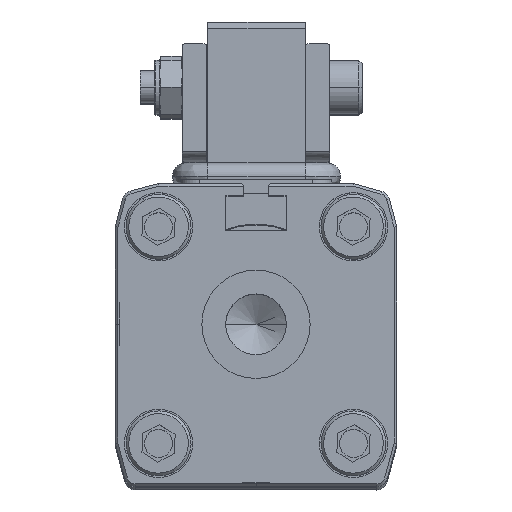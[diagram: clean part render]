
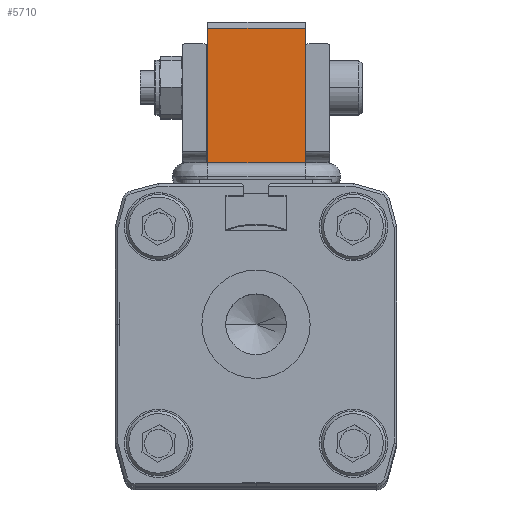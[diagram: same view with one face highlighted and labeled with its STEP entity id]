
A CAD part, top view. The second image highlights one B-rep face of the part: STEP entity #5710.
In plain terms, the highlighted planar face has unit normal (0, 0, 1).
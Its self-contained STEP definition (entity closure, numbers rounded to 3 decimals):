
#262 = VECTOR ( 'NONE', #14747, 1000. ) ;
#1405 = FACE_OUTER_BOUND ( 'NONE', #29903, .T. ) ;
#2987 = ORIENTED_EDGE ( 'NONE', *, *, #30590, .F. ) ;
#4128 = ORIENTED_EDGE ( 'NONE', *, *, #24702, .T. ) ;
#5710 = ADVANCED_FACE ( 'NONE', ( #1405 ), #26987, .T. ) ;
#9237 = VECTOR ( 'NONE', #18330, 1000. ) ;
#10113 = LINE ( 'NONE', #14879, #262 ) ;
#12184 = VECTOR ( 'NONE', #35940, 1000. ) ;
#13817 = CARTESIAN_POINT ( 'NONE',  ( 9.1, 56.8, 350.5 ) ) ;
#14747 = DIRECTION ( 'NONE',  ( 0., -1., 0. ) ) ;
#14879 = CARTESIAN_POINT ( 'NONE',  ( -8.9, 56.8, 350.5 ) ) ;
#16023 = VERTEX_POINT ( 'NONE', #40854 ) ;
#16625 = DIRECTION ( 'NONE',  ( -1., 0., 0. ) ) ;
#16880 = CARTESIAN_POINT ( 'NONE',  ( -8.9, 56.8, 350.5 ) ) ;
#17284 = VECTOR ( 'NONE', #16625, 1000. ) ;
#18330 = DIRECTION ( 'NONE',  ( -1., 0., 0. ) ) ;
#18465 = EDGE_CURVE ( 'NONE', #16023, #22670, #21043, .T. ) ;
#20537 = DIRECTION ( 'NONE',  ( 0., 0., 1. ) ) ;
#21043 = LINE ( 'NONE', #34161, #9237 ) ;
#21257 = LINE ( 'NONE', #16880, #17284 ) ;
#22670 = VERTEX_POINT ( 'NONE', #27941 ) ;
#24077 = CARTESIAN_POINT ( 'NONE',  ( -8.9, 56.8, 350.5 ) ) ;
#24702 = EDGE_CURVE ( 'NONE', #32200, #22670, #10113, .T. ) ;
#26987 = PLANE ( 'NONE',  #38162 ) ;
#27941 = CARTESIAN_POINT ( 'NONE',  ( -8.9, 31.5, 350.5 ) ) ;
#29903 = EDGE_LOOP ( 'NONE', ( #4128, #34719, #2987, #30256 ) ) ;
#30256 = ORIENTED_EDGE ( 'NONE', *, *, #33487, .T. ) ;
#30590 = EDGE_CURVE ( 'NONE', #34507, #16023, #37782, .T. ) ;
#32200 = VERTEX_POINT ( 'NONE', #40191 ) ;
#33487 = EDGE_CURVE ( 'NONE', #34507, #32200, #21257, .T. ) ;
#34161 = CARTESIAN_POINT ( 'NONE',  ( -8.9, 31.5, 350.5 ) ) ;
#34507 = VERTEX_POINT ( 'NONE', #13817 ) ;
#34719 = ORIENTED_EDGE ( 'NONE', *, *, #18465, .F. ) ;
#35811 = CARTESIAN_POINT ( 'NONE',  ( 9.1, 56.8, 350.5 ) ) ;
#35940 = DIRECTION ( 'NONE',  ( 0., -1., 0. ) ) ;
#36646 = DIRECTION ( 'NONE',  ( 1., 0., 0. ) ) ;
#37782 = LINE ( 'NONE', #35811, #12184 ) ;
#38162 = AXIS2_PLACEMENT_3D ( 'NONE', #24077, #20537, #36646 ) ;
#40191 = CARTESIAN_POINT ( 'NONE',  ( -8.9, 56.8, 350.5 ) ) ;
#40854 = CARTESIAN_POINT ( 'NONE',  ( 9.1, 31.5, 350.5 ) ) ;
